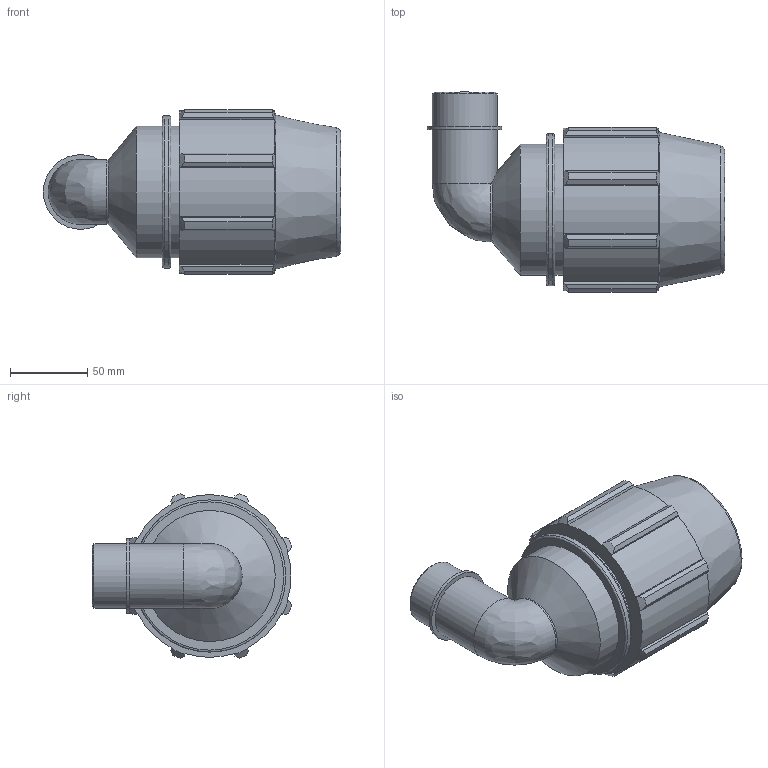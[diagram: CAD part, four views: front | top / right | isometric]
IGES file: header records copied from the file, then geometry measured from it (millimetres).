
Global section: file name: 078500063013_188500063013_0785060630130A.ipt; native system: Autodesk Inventor 2015; preprocessor: unknown; author: KIM; date: 20170606.133142; units: millimetre
Bounding box: 192.1 x 129.16 x 106.32 mm (x, y, z)
Volume: 742354.9 mm3; surface area: 107651.9 mm2
Topology: 1 solids, 1 shells, 86 faces, 237 edges, 158 vertices
Faces by surface type: plane 41, cylinder 23, cone 12, revolution 9, bspline 1
Full cylindrical faces by diameter (mm): 41.91 x2, 48.197 x1, 84.75 x2, 98.31 x1
